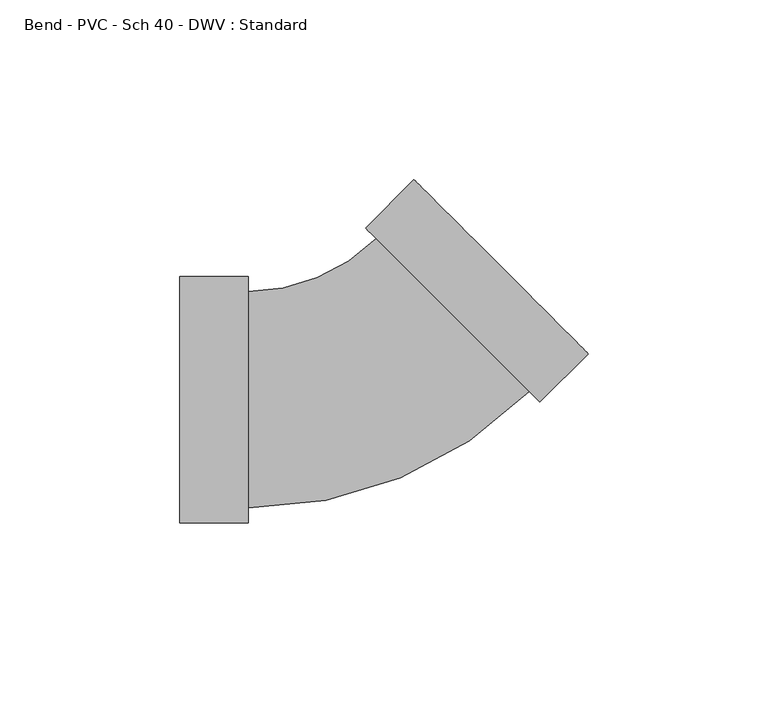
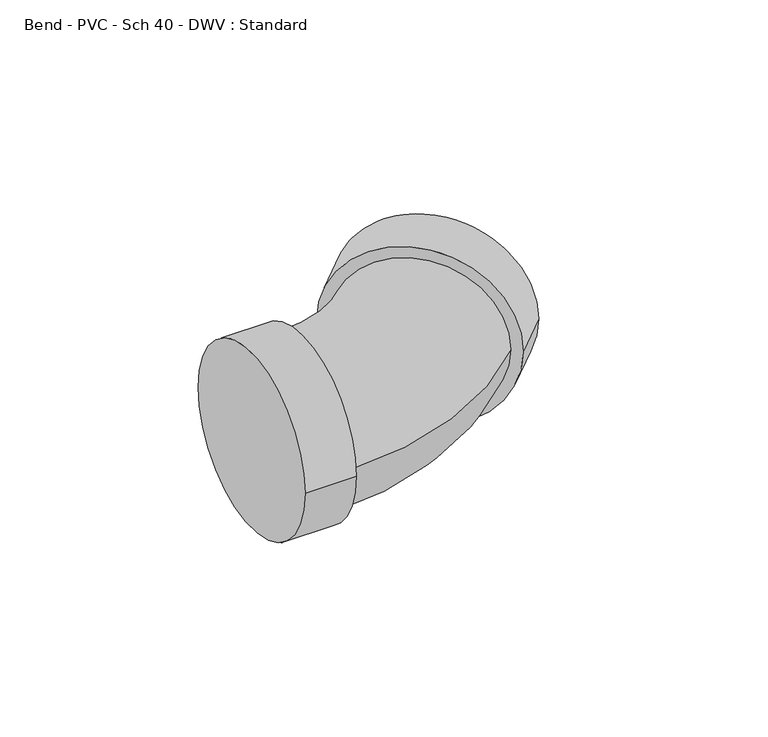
"""IFC4 building model written with IfcOpenShell, lengths in millimetres: pipe fitting geometry, Bend - PVC - Sch 40 - DWV : Standard."""

from ifc_helpers import new_model, si_unit, point, frame, origin, place, context, project, spatial, circle_curve, ellipse_curve, trimmed, source, transform, mapped, element, save
from ifc_brep_helpers import plane_surface, cylinder_surface, revolved_surface, advanced_brep


def bend_pvc_sch_40_dwv_standard_f5a66049(model_context):
    return source(origin(), model_context, "Body", "AdvancedBrep", [
        advanced_brep(
        [(-52.4002, -34.3154, 0.0), (-52.4002, 34.3154, 0.0), (-33.3502, -34.3154, 0.0), (-33.3502, 34.3154, 0.0), (-33.3502, -30.1625, 0.0), (-33.3502, 30.1625, 0.0), (2.2492174, 44.9105029, 0.0), (44.9100183, 2.2588711, 0.0), (47.8468777, -0.677357, 0.0), (-0.6876419, 47.846731, 0.0), (61.315814, 12.7944749, 0.0), (12.7812944, 61.3185628, 0.0)],
        [
            (0, 1, circle_curve(frame((-52.4002, 0.0, 0.0), z_axis=(-1.0, 0.0, 0.0), x_axis=(0.0, 1.0, 0.0)), 34.3154)),
            (1, 0, circle_curve(frame((-52.4002, 0.0, 0.0), z_axis=(-1.0, 0.0, 0.0), x_axis=(0.0, 1.0, 0.0)), 34.3154)),
            (2, 3, circle_curve(frame((-33.3502, 0.0, 0.0), z_axis=(1.0, 0.0, 0.0), x_axis=(0.0, 1.0, 0.0)), 34.3154)),
            (3, 2, circle_curve(frame((-33.3502, 0.0, 0.0), z_axis=(1.0, 0.0, 0.0), x_axis=(0.0, 1.0, 0.0)), 34.3154)),
            (4, 5, circle_curve(frame((-33.3502, 0.0, 0.0), z_axis=(-1.0, 0.0, 0.0), x_axis=(0.0, 1.0, 0.0)), 30.1625)),
            (5, 4, circle_curve(frame((-33.3502, 0.0, 0.0), z_axis=(-1.0, 0.0, 0.0), x_axis=(0.0, 1.0, 0.0)), 30.1625)),
            (0, 2),
            (3, 1),
            (6, 5, circle_curve(frame((-33.3502, 80.5022689, 0.0), z_axis=(0.0, 0.0, -1.0), x_axis=(0.0, -1.0, 0.0)), 50.3397689)),
            (4, 7, circle_curve(frame((-33.3502, 80.5022689, 0.0), z_axis=(0.0, 0.0, 1.0), x_axis=(0.0, -1.0, 0.0)), 110.6647689)),
            (7, 6, circle_curve(frame((23.5796179, 23.584687, 0.0), z_axis=(-0.7070307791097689, -0.7071827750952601, 0.0), x_axis=(-0.7071827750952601, 0.7070307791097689, 0.0)), 30.1625)),
            (6, 7, circle_curve(frame((23.5796179, 23.584687, 0.0), z_axis=(-0.7070307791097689, -0.7071827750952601, 0.0), x_axis=(-0.7071827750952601, 0.7070307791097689, 0.0)), 30.1625)),
            (8, 9, circle_curve(frame((23.5796179, 23.584687, 0.0), z_axis=(-0.7070307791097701, -0.7071827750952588, 0.0), x_axis=(-0.7071827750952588, 0.7070307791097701, 0.0)), 34.3154)),
            (9, 8, circle_curve(frame((23.5796179, 23.584687, 0.0), z_axis=(-0.7070307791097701, -0.7071827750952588, 0.0), x_axis=(-0.7071827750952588, 0.7070307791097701, 0.0)), 34.3154)),
            (10, 11, circle_curve(frame((37.0485542, 37.0565189, 0.0), z_axis=(0.7070307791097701, 0.7071827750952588, 0.0), x_axis=(-0.7071827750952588, 0.7070307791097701, 0.0)), 34.3154)),
            (11, 10, circle_curve(frame((37.0485542, 37.0565189, 0.0), z_axis=(0.7070307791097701, 0.7071827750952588, 0.0), x_axis=(-0.7071827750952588, 0.7070307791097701, 0.0)), 34.3154)),
            (8, 10),
            (11, 9),
        ],
        [
            plane_surface(frame((-52.4002, 0.0, 0.0), z_axis=(-1.0, 0.0, 0.0), x_axis=(0.0, 0.0, 1.0))),
            plane_surface(frame((-33.3502, 0.0, 0.0), z_axis=(1.0, 0.0, 0.0), x_axis=(0.0, 0.0, 1.0))),
            cylinder_surface(frame((-52.4002, 0.0, 0.0), z_axis=(-1.0, 0.0, 0.0), x_axis=(0.0, 1.0, 0.0)), 34.3154),
            revolved_surface(trimmed(ellipse_curve(frame((-33.3502, 0.0, 0.0), z_axis=(-1.0, 0.0, 0.0), x_axis=(0.0, 1.0, 0.0)), 30.1625, 30.1625), [point((-33.3502, -30.1625, 0.0))], [point((-33.3502, 30.1625, 0.0))], True, "CARTESIAN"), (-33.3502, 80.5022689, 0.0), (0.0, 0.0, 1.0)),
            revolved_surface(trimmed(ellipse_curve(frame((-33.3502, 0.0, 0.0), z_axis=(-1.0, 0.0, 0.0), x_axis=(0.0, 1.0, 0.0)), 30.1625, 30.1625), [point((-33.3502, 30.1625, 0.0))], [point((-33.3502, -30.1625, 0.0))], True, "CARTESIAN"), (-33.3502, 80.5022689, 0.0), (0.0, 0.0, 1.0)),
            plane_surface(frame((23.5796179, 23.584687, 0.0), z_axis=(-0.7070307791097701, -0.7071827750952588, 0.0), x_axis=(0.0, 0.0, 1.0))),
            plane_surface(frame((37.0485542, 37.0565189, 0.0), z_axis=(0.7070307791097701, 0.7071827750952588, 0.0), x_axis=(0.0, 0.0, 1.0))),
            cylinder_surface(frame((23.5796179, 23.584687, 0.0), z_axis=(-0.7070307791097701, -0.7071827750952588, 0.0), x_axis=(-0.7071827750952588, 0.7070307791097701, 0.0)), 34.3154),
        ],
        [
            (0, [[1, 2]]),
            (1, [[3, 4], [5, 6]]),
            (2, [[-1, 7, -4, 8]]),
            (2, [[-2, -8, -3, -7]]),
            (3, [[9, -5, 10, 11]]),
            (4, [[-9, 12, -10, -6]]),
            (5, [[13, 14], [-11, -12]]),
            (6, [[15, 16]]),
            (7, [[-13, 17, -16, 18]]),
            (7, [[-14, -18, -15, -17]]),
        ],
    ),
    ])


if __name__ == "__main__":
    model = new_model("IFC4")
    model_context = context("Model", 3, world=origin())
    ifc_project = project(units=[si_unit("LENGTHUNIT", "METRE", prefix="MILLI")], contexts=[model_context])
    site = spatial("IfcSite", under=ifc_project)
    building = spatial("IfcBuilding", under=site)
    placement = place(None, origin())
    bend_pvc_sch_40_dwv_standard_shape = bend_pvc_sch_40_dwv_standard_f5a66049(model_context)
    element("IfcPipeFitting", 1, ObjectType="Bend - PVC - Sch 40 - DWV : Standard", at=placement, inside=building, context=model_context, shape_type="MappedRepresentation", body=[
        mapped(bend_pvc_sch_40_dwv_standard_shape, transform((0.0, 0.0, 0.0), x_axis=(1.0, 0.0, 0.0), y_axis=(0.0, 1.0, 0.0), z_axis=(0.0, 0.0, 1.0))),
    ])
    save(model, "model.ifc")
